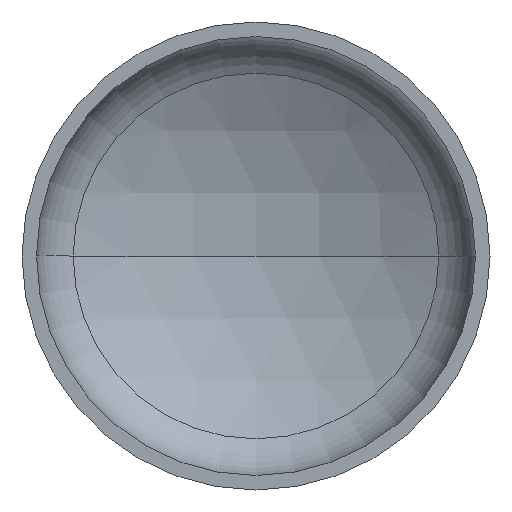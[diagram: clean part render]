
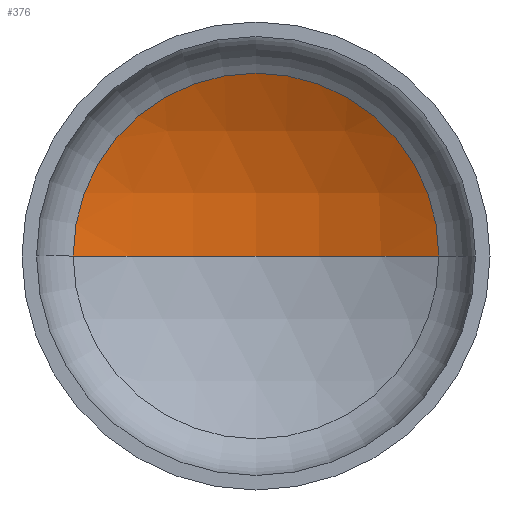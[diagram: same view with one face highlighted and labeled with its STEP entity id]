
A CAD part, front view. The second image highlights one B-rep face of the part: STEP entity #376.
In plain terms, the highlighted spherical face has radius 1440 mm.
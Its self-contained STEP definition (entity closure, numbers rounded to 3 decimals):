
#2 = SPHERICAL_SURFACE ( 'NONE', #349, 1440. ) ;
#4 = DIRECTION ( 'NONE',  ( -1., 0., 0. ) ) ;
#6 = DIRECTION ( 'NONE',  ( 1., 0., 0. ) ) ;
#8 = DIRECTION ( 'NONE',  ( 0., 0., 1. ) ) ;
#11 = CARTESIAN_POINT ( 'NONE',  ( 0., -896.594, 0. ) ) ;
#20 = AXIS2_PLACEMENT_3D ( 'NONE', #11, #8, #6 ) ;
#21 = AXIS2_PLACEMENT_3D ( 'NONE', #390, #211, #4 ) ;
#22 = DIRECTION ( 'NONE',  ( 0., 0., -1. ) ) ;
#23 = AXIS2_PLACEMENT_3D ( 'NONE', #164, #141, #142 ) ;
#41 = VERTEX_POINT ( 'NONE', #255 ) ;
#62 = EDGE_CURVE ( 'NONE', #152, #286, #241, .T. ) ;
#63 = EDGE_CURVE ( 'NONE', #41, #152, #166, .T. ) ;
#64 = EDGE_CURVE ( 'NONE', #41, #286, #394, .T. ) ;
#70 = EDGE_LOOP ( 'NONE', ( #297, #333, #77 ) ) ;
#72 = DIRECTION ( 'NONE',  ( -1., 0., 0. ) ) ;
#77 = ORIENTED_EDGE ( 'NONE', *, *, #62, .T. ) ;
#102 = FACE_OUTER_BOUND ( 'NONE', #70, .T. ) ;
#132 = CARTESIAN_POINT ( 'NONE',  ( 703.313, 359.969, 0. ) ) ;
#141 = DIRECTION ( 'NONE',  ( 0., -1., 0. ) ) ;
#142 = DIRECTION ( 'NONE',  ( 1., 0., 0. ) ) ;
#152 = VERTEX_POINT ( 'NONE', #132 ) ;
#164 = CARTESIAN_POINT ( 'NONE',  ( 0., 359.969, 0. ) ) ;
#166 = CIRCLE ( 'NONE', #21, 1440. ) ;
#211 = DIRECTION ( 'NONE',  ( 0., 0., -1. ) ) ;
#241 = CIRCLE ( 'NONE', #23, 703.313 ) ;
#255 = CARTESIAN_POINT ( 'NONE',  ( 0., 543.406, 0. ) ) ;
#286 = VERTEX_POINT ( 'NONE', #397 ) ;
#297 = ORIENTED_EDGE ( 'NONE', *, *, #64, .F. ) ;
#333 = ORIENTED_EDGE ( 'NONE', *, *, #63, .T. ) ;
#349 = AXIS2_PLACEMENT_3D ( 'NONE', #395, #22, #72 ) ;
#376 = ADVANCED_FACE ( 'NONE', ( #102 ), #2, .F. ) ;
#390 = CARTESIAN_POINT ( 'NONE',  ( 0., -896.594, 0. ) ) ;
#394 = CIRCLE ( 'NONE', #20, 1440. ) ;
#395 = CARTESIAN_POINT ( 'NONE',  ( 0., -896.594, 0. ) ) ;
#397 = CARTESIAN_POINT ( 'NONE',  ( -703.313, 359.969, 0. ) ) ;
